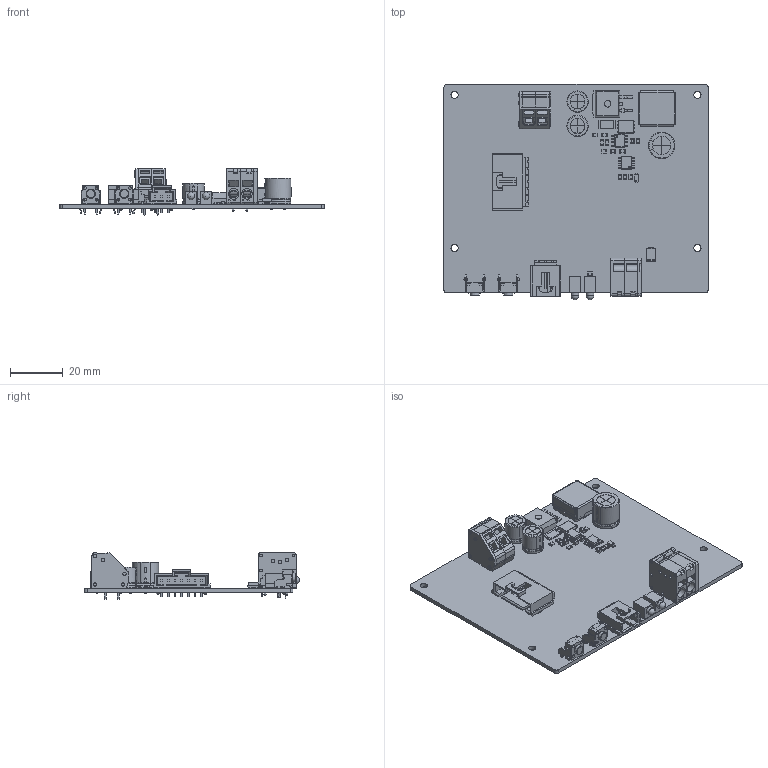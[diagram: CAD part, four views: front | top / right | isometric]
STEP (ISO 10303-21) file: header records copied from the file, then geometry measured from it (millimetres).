
FILE_DESCRIPTION(('KiCad electronic assembly'),'2;1');
FILE_NAME('NX-J401-Adapter.step','2025-01-15T16:48:40',('Pcbnew'),( 'Kicad'),'Open CASCADE STEP processor 7.6','KiCad to STEP converter' ,'Unknown');
FILE_SCHEMA(('AUTOMOTIVE_DESIGN { 1 0 10303 214 1 1 1 1 }'));
Length unit declared in the file: millimetre
Products named in the file (36): NX-J401-Adapter 1; TO-263-2; CQ assembly; VSON8-DQJ0008A; DQJ0008A_ASM; R_0805_2012Metric; Dialight; Assembly 1; CP_Radial_D8.0mm_P3.50mm; CP_Radial_D80mm_P350mm; TL1105VFxxxx; P:\E-Switch Secure\3D_MODELS_STP_FORMAT\TL1105VFxxxx.stp; C_0805_2012Metric; Wurth_691406510002B (rev1); 6914065100xxB; 705550002; SOIC-8_3.9x4.9mm_P1.27mm; SOIC_8_39x49mm_P127mm; D_SMB; 705550006; CP_Radial_D10.0mm_P5.00mm; CP_Radial_D100mm_P500mm; D_SOD-123F; D_SOD_123F; Wurth_691408720002B (rev1); 6914087200xxB; R_2512_6332Metric; Vishay-IHLE5050FH; IHLE5050FH; NX-J401-Adapter_PCB
Assembly tree (50 placements, depth 3):
  NX-J401-Adapter 1
    TO-263-2
      CQ assembly
    VSON8-DQJ0008A
      DQJ0008A_ASM
    R_0805_2012Metric  x8
      R_0805_2012Metric
    Dialight  x2
      Assembly 1
    CP_Radial_D8.0mm_P3.50mm  x2
      CP_Radial_D80mm_P350mm
    TL1105VFxxxx  x2
      P:\E-Switch Secure\3D_MODELS_STP_FORMAT\TL1105VFxxxx.stp
    C_0805_2012Metric  x5
      C_0805_2012Metric
    Wurth_691406510002B (rev1)
      6914065100xxB
    705550002
      705550002
    SOIC-8_3.9x4.9mm_P1.27mm  x2
      SOIC_8_39x49mm_P127mm
    D_SMB
      D_SMB
    705550006
      705550006
    CP_Radial_D10.0mm_P5.00mm
      CP_Radial_D100mm_P500mm
    D_SOD-123F
      D_SOD_123F
    Wurth_691408720002B (rev1)
      6914087200xxB
    R_2512_6332Metric
      R_2512_6332Metric
    Vishay-IHLE5050FH
      IHLE5050FH
    NX-J401-Adapter_PCB
Bounding box: 100 x 81.53 x 17.55 mm (x, y, z)
Volume: 20102 mm3; surface area: 30197.7 mm2
Topology: 56 solids, 61 shells, 3411 faces, 9103 edges, 5965 vertices
Faces by surface type: plane 2431, cylinder 792, bspline 133, cone 21, revolution 16, torus 16, sphere 2
Full cylindrical faces by diameter (mm): 0.5 x4, 0.6 x2, 0.7 x2, 0.8 x4, 0.991 x4, 1 x32, 1.067 x10, 1.1 x4, 1.194 x4, 1.25 x25, 1.295 x4, 1.3 x15, 1.546 x2, 2.5 x1, 2.7 x4, 2.845 x2, 3.4 x4, 3.5 x2, 4 x2, 5 x2
Entity records: 89038 total; most frequent: CARTESIAN_POINT 17653, ORIENTED_EDGE 14074, DIRECTION 13169, EDGE_CURVE 7037, LINE 5471, VECTOR 5471, VERTEX_POINT 4584, AXIS2_PLACEMENT_3D 3844
